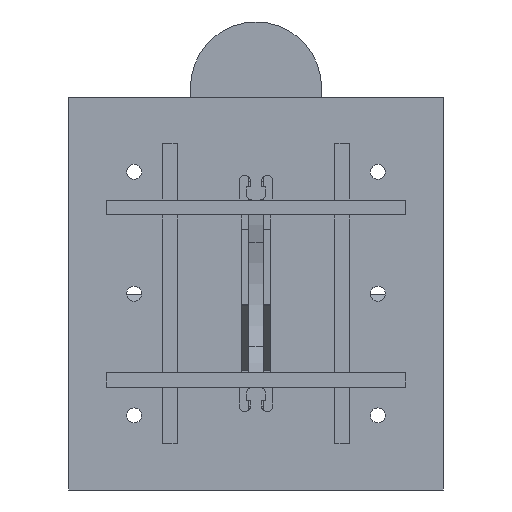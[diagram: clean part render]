
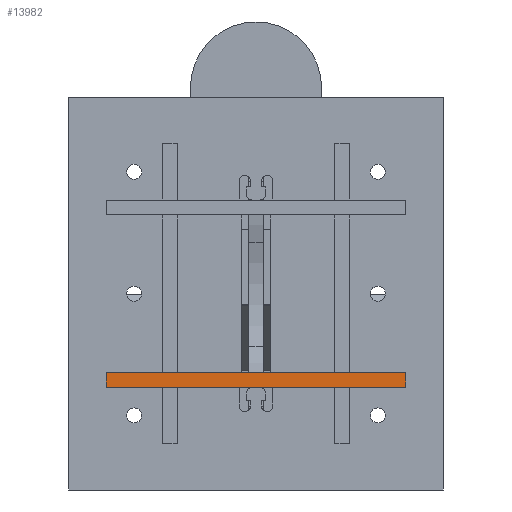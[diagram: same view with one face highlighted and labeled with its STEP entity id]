
A CAD part, front view. The second image highlights one B-rep face of the part: STEP entity #13982.
In plain terms, the highlighted planar face has unit normal (0, -1, 0).
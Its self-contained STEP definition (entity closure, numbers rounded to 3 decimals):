
#485=LINE('',#19982,#2243);
#547=LINE('',#20104,#2305);
#629=LINE('',#20269,#2387);
#654=LINE('',#20319,#2412);
#2243=VECTOR('',#16240,10.);
#2305=VECTOR('',#16304,10.);
#2387=VECTOR('',#16456,10.);
#2412=VECTOR('',#16531,10.);
#3826=PLANE('',#14771);
#4722=FACE_OUTER_BOUND('',#5576,.T.);
#5576=EDGE_LOOP('',(#10901,#10902,#10903,#10904));
#6702=VERTEX_POINT('',#19979);
#6703=VERTEX_POINT('',#19981);
#6752=VERTEX_POINT('',#20081);
#6762=VERTEX_POINT('',#20102);
#8173=EDGE_CURVE('',#6703,#6702,#485,.T.);
#8235=EDGE_CURVE('',#6752,#6762,#547,.T.);
#8317=EDGE_CURVE('',#6703,#6762,#629,.T.);
#8342=EDGE_CURVE('',#6702,#6752,#654,.T.);
#10901=ORIENTED_EDGE('',*,*,#8235,.T.);
#10902=ORIENTED_EDGE('',*,*,#8317,.F.);
#10903=ORIENTED_EDGE('',*,*,#8173,.T.);
#10904=ORIENTED_EDGE('',*,*,#8342,.T.);
#13982=ADVANCED_FACE('',(#4722),#3826,.F.);
#14771=AXIS2_PLACEMENT_3D('',#20320,#16532,#16533);
#16240=DIRECTION('',(-1.,0.,0.));
#16304=DIRECTION('',(1.,0.,0.));
#16456=DIRECTION('',(0.,0.,-1.));
#16531=DIRECTION('',(0.,0.,-1.));
#16532=DIRECTION('center_axis',(0.,1.,0.));
#16533=DIRECTION('ref_axis',(1.,0.,0.));
#19979=CARTESIAN_POINT('',(-40.,0.,-21.));
#19981=CARTESIAN_POINT('',(40.,0.,-21.));
#19982=CARTESIAN_POINT('',(40.,0.,-21.));
#20081=CARTESIAN_POINT('',(-40.,0.,-25.));
#20102=CARTESIAN_POINT('',(40.,0.,-25.));
#20104=CARTESIAN_POINT('',(-40.,0.,-25.));
#20269=CARTESIAN_POINT('',(40.,0.,-21.));
#20319=CARTESIAN_POINT('',(-40.,0.,-21.));
#20320=CARTESIAN_POINT('Origin',(-20.,0.,-23.));
